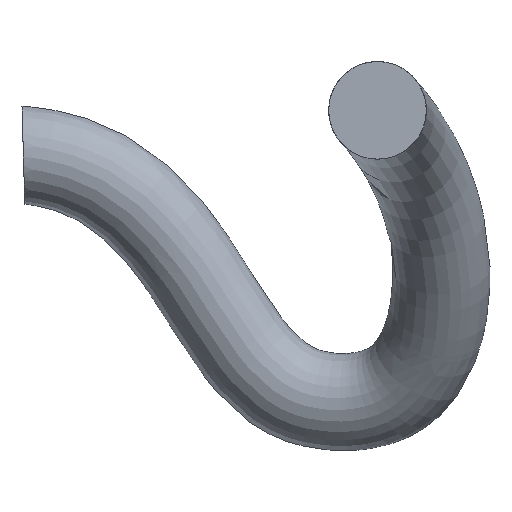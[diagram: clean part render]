
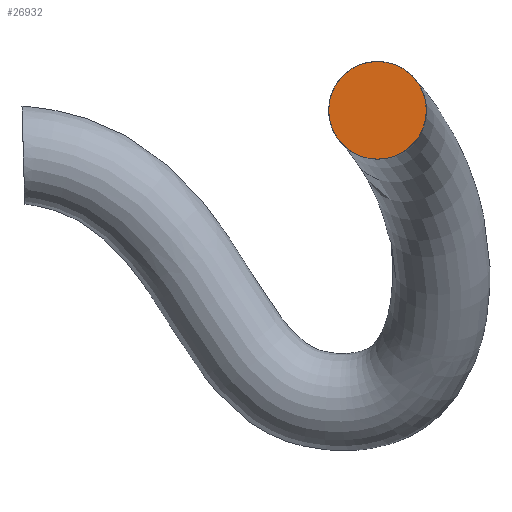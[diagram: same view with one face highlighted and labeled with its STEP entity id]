
A CAD part, front view. The second image highlights one B-rep face of the part: STEP entity #26932.
In plain terms, the highlighted planar face has unit normal (0, -1, 0).
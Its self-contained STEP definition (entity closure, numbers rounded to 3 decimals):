
#1518 = VERTEX_POINT ( 'NONE', #15287 ) ;
#2009 = PLANE ( 'NONE',  #38067 ) ;
#11123 = AXIS2_PLACEMENT_3D ( 'NONE', #36180, #25936, #32610 ) ;
#12236 = DIRECTION ( 'NONE',  ( -1., 0., 0. ) ) ;
#12678 = FACE_OUTER_BOUND ( 'NONE', #39084, .T. ) ;
#15287 = CARTESIAN_POINT ( 'NONE',  ( 1867., -84.598, 2567. ) ) ;
#15558 = CARTESIAN_POINT ( 'NONE',  ( 1910., -84.598, 2567. ) ) ;
#18901 = CIRCLE ( 'NONE', #11123, 43. ) ;
#21496 = ORIENTED_EDGE ( 'NONE', *, *, #42156, .F. ) ;
#25936 = DIRECTION ( 'NONE',  ( 0., 1., 0. ) ) ;
#26932 = ADVANCED_FACE ( 'NONE', ( #12678 ), #2009, .F. ) ;
#32610 = DIRECTION ( 'NONE',  ( -1., 0., 0. ) ) ;
#36180 = CARTESIAN_POINT ( 'NONE',  ( 1910., -84.598, 2567. ) ) ;
#38067 = AXIS2_PLACEMENT_3D ( 'NONE', #15558, #42692, #12236 ) ;
#39084 = EDGE_LOOP ( 'NONE', ( #21496 ) ) ;
#42156 = EDGE_CURVE ( 'NONE', #1518, #1518, #18901, .T. ) ;
#42692 = DIRECTION ( 'NONE',  ( 0., 1., 0. ) ) ;
